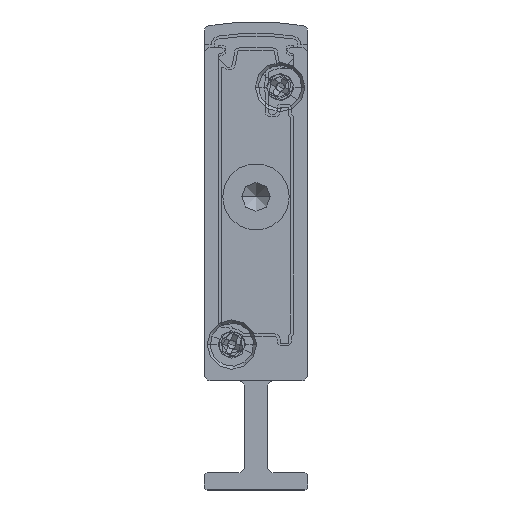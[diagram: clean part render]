
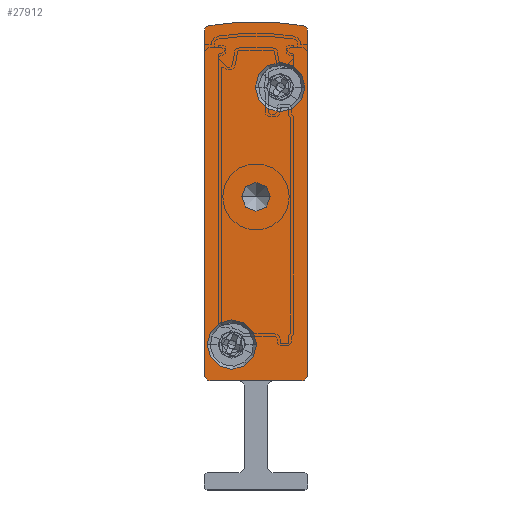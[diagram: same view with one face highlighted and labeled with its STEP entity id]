
A CAD part, front view. The second image highlights one B-rep face of the part: STEP entity #27912.
In plain terms, the highlighted planar face has unit normal (0, -1, 0).
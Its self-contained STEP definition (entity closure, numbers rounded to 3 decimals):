
#16 = ORIENTED_EDGE ( 'NONE', *, *, #5383, .F. ) ;
#88 = CARTESIAN_POINT ( 'NONE',  ( 0., -2.5, 10. ) ) ;
#490 = CARTESIAN_POINT ( 'NONE',  ( 6.6, -2.5, 35.05 ) ) ;
#936 = DIRECTION ( 'NONE',  ( -1., 0., 0. ) ) ;
#1350 = CARTESIAN_POINT ( 'NONE',  ( 0.5, -2.5, 39.902 ) ) ;
#1627 = EDGE_CURVE ( 'NONE', #18085, #25270, #19783, .T. ) ;
#2042 = DIRECTION ( 'NONE',  ( 0., 1., 0. ) ) ;
#2260 = DIRECTION ( 'NONE',  ( -1., 0., 0. ) ) ;
#2275 = ORIENTED_EDGE ( 'NONE', *, *, #3250, .T. ) ;
#2286 = EDGE_CURVE ( 'NONE', #25270, #18085, #25450, .T. ) ;
#2747 = CARTESIAN_POINT ( 'NONE',  ( 5.75, -2.5, 25.5 ) ) ;
#3081 = DIRECTION ( 'NONE',  ( 1., 0., 0. ) ) ;
#3250 = EDGE_CURVE ( 'NONE', #22604, #6159, #25810, .T. ) ;
#3558 = AXIS2_PLACEMENT_3D ( 'NONE', #28914, #15836, #23493 ) ;
#3563 = EDGE_LOOP ( 'NONE', ( #4522, #32672 ) ) ;
#3567 = CARTESIAN_POINT ( 'NONE',  ( 4.5, -2.5, 25.5 ) ) ;
#4421 = VERTEX_POINT ( 'NONE', #29324 ) ;
#4522 = ORIENTED_EDGE ( 'NONE', *, *, #1627, .F. ) ;
#4540 = VERTEX_POINT ( 'NONE', #16911 ) ;
#5207 = DIRECTION ( 'NONE',  ( 0., 1., 0. ) ) ;
#5383 = EDGE_CURVE ( 'NONE', #18990, #12599, #16414, .T. ) ;
#5479 = CIRCLE ( 'NONE', #20497, 0.5 ) ;
#5655 = DIRECTION ( 'NONE',  ( 1., 0., 0. ) ) ;
#5879 = EDGE_CURVE ( 'NONE', #30421, #12069, #18082, .T. ) ;
#6041 = CARTESIAN_POINT ( 'NONE',  ( 2.4, -2.5, 12.65 ) ) ;
#6115 = DIRECTION ( 'NONE',  ( 0., 1., 0. ) ) ;
#6159 = VERTEX_POINT ( 'NONE', #16848 ) ;
#6209 = CARTESIAN_POINT ( 'NONE',  ( 0.5, -2.5, 9.5 ) ) ;
#6306 = DIRECTION ( 'NONE',  ( 0., 1., 0. ) ) ;
#6441 = VERTEX_POINT ( 'NONE', #10023 ) ;
#6478 = DIRECTION ( 'NONE',  ( 0., -1., 0. ) ) ;
#6849 = EDGE_CURVE ( 'NONE', #11015, #4421, #27339, .T. ) ;
#6907 = DIRECTION ( 'NONE',  ( 1., 0., 0. ) ) ;
#7150 = CIRCLE ( 'NONE', #26498, 0.5 ) ;
#7227 = DIRECTION ( 'NONE',  ( -1., 0., 0. ) ) ;
#7665 = PLANE ( 'NONE',  #11018 ) ;
#7734 = CARTESIAN_POINT ( 'NONE',  ( 0.5, -2.5, 10. ) ) ;
#8052 = CARTESIAN_POINT ( 'NONE',  ( 0.5, -2.5, 9.5 ) ) ;
#8266 = EDGE_CURVE ( 'NONE', #4540, #6441, #24892, .T. ) ;
#8344 = CARTESIAN_POINT ( 'NONE',  ( 4.55, -2.5, 12.65 ) ) ;
#9285 = CARTESIAN_POINT ( 'NONE',  ( 0.408, -2.5, 40.393 ) ) ;
#9975 = DIRECTION ( 'NONE',  ( -1., 0., 0. ) ) ;
#10023 = CARTESIAN_POINT ( 'NONE',  ( 9., -2.5, 10. ) ) ;
#10039 = ORIENTED_EDGE ( 'NONE', *, *, #33192, .F. ) ;
#10143 = ORIENTED_EDGE ( 'NONE', *, *, #25321, .F. ) ;
#10177 = AXIS2_PLACEMENT_3D ( 'NONE', #11277, #6115, #936 ) ;
#10195 = DIRECTION ( 'NONE',  ( 0., 1., 0. ) ) ;
#10214 = VERTEX_POINT ( 'NONE', #27366 ) ;
#10241 = CARTESIAN_POINT ( 'NONE',  ( 0.5, -2.5, 39.902 ) ) ;
#10334 = VECTOR ( 'NONE', #29948, 1000. ) ;
#11015 = VERTEX_POINT ( 'NONE', #88 ) ;
#11018 = AXIS2_PLACEMENT_3D ( 'NONE', #10241, #5207, #2260 ) ;
#11109 = AXIS2_PLACEMENT_3D ( 'NONE', #31917, #6306, #11701 ) ;
#11277 = CARTESIAN_POINT ( 'NONE',  ( 8.5, -2.5, 10. ) ) ;
#11532 = VECTOR ( 'NONE', #21162, 1000. ) ;
#11568 = VECTOR ( 'NONE', #15291, 1000. ) ;
#11574 = EDGE_CURVE ( 'NONE', #10214, #4540, #5479, .T. ) ;
#11701 = DIRECTION ( 'NONE',  ( -1., 0., 0. ) ) ;
#12069 = VERTEX_POINT ( 'NONE', #13901 ) ;
#12163 = FACE_BOUND ( 'NONE', #3563, .T. ) ;
#12599 = VERTEX_POINT ( 'NONE', #6209 ) ;
#13338 = CARTESIAN_POINT ( 'NONE',  ( 2.4, -2.5, 12.65 ) ) ;
#13635 = CIRCLE ( 'NONE', #10177, 0.5 ) ;
#13688 = ORIENTED_EDGE ( 'NONE', *, *, #5879, .F. ) ;
#13838 = DIRECTION ( 'NONE',  ( 0., 1., 0. ) ) ;
#13901 = CARTESIAN_POINT ( 'NONE',  ( 0.25, -2.5, 12.65 ) ) ;
#14983 = FACE_BOUND ( 'NONE', #18258, .T. ) ;
#15291 = DIRECTION ( 'NONE',  ( 0., 0., 1. ) ) ;
#15324 = CARTESIAN_POINT ( 'NONE',  ( 8.75, -2.5, 35.05 ) ) ;
#15836 = DIRECTION ( 'NONE',  ( 0., 1., 0. ) ) ;
#16173 = DIRECTION ( 'NONE',  ( 0., -1., 0. ) ) ;
#16183 = AXIS2_PLACEMENT_3D ( 'NONE', #490, #16173, #3081 ) ;
#16244 = ORIENTED_EDGE ( 'NONE', *, *, #25006, .T. ) ;
#16258 = ORIENTED_EDGE ( 'NONE', *, *, #6849, .F. ) ;
#16414 = LINE ( 'NONE', #8052, #11532 ) ;
#16446 = EDGE_CURVE ( 'NONE', #6441, #18990, #13635, .T. ) ;
#16604 = ORIENTED_EDGE ( 'NONE', *, *, #32961, .F. ) ;
#16848 = CARTESIAN_POINT ( 'NONE',  ( 3.25, -2.5, 25.5 ) ) ;
#16911 = CARTESIAN_POINT ( 'NONE',  ( 9., -2.5, 39.902 ) ) ;
#17015 = EDGE_CURVE ( 'NONE', #12069, #30421, #25673, .T. ) ;
#17413 = AXIS2_PLACEMENT_3D ( 'NONE', #7734, #10195, #9975 ) ;
#17884 = CIRCLE ( 'NONE', #17413, 0.5 ) ;
#17926 = EDGE_LOOP ( 'NONE', ( #13688, #26987 ) ) ;
#18062 = CIRCLE ( 'NONE', #3558, 1.25 ) ;
#18082 = CIRCLE ( 'NONE', #27078, 2.15 ) ;
#18085 = VERTEX_POINT ( 'NONE', #15324 ) ;
#18258 = EDGE_LOOP ( 'NONE', ( #16244, #2275 ) ) ;
#18279 = CIRCLE ( 'NONE', #11109, 23.658 ) ;
#18714 = DIRECTION ( 'NONE',  ( -1., 0., 0. ) ) ;
#18990 = VERTEX_POINT ( 'NONE', #27279 ) ;
#19783 = CIRCLE ( 'NONE', #16183, 2.15 ) ;
#20048 = CARTESIAN_POINT ( 'NONE',  ( 9., -2.5, 39.902 ) ) ;
#20400 = AXIS2_PLACEMENT_3D ( 'NONE', #3567, #13838, #18714 ) ;
#20497 = AXIS2_PLACEMENT_3D ( 'NONE', #27890, #2042, #7227 ) ;
#20886 = ORIENTED_EDGE ( 'NONE', *, *, #16446, .F. ) ;
#21085 = ORIENTED_EDGE ( 'NONE', *, *, #11574, .F. ) ;
#21162 = DIRECTION ( 'NONE',  ( -1., 0., 0. ) ) ;
#22255 = CARTESIAN_POINT ( 'NONE',  ( 6.6, -2.5, 35.05 ) ) ;
#22604 = VERTEX_POINT ( 'NONE', #2747 ) ;
#23482 = FACE_OUTER_BOUND ( 'NONE', #27388, .T. ) ;
#23493 = DIRECTION ( 'NONE',  ( -1., 0., 0. ) ) ;
#24478 = DIRECTION ( 'NONE',  ( 0., 1., 0. ) ) ;
#24892 = LINE ( 'NONE', #20048, #10334 ) ;
#25006 = EDGE_CURVE ( 'NONE', #6159, #22604, #18062, .T. ) ;
#25270 = VERTEX_POINT ( 'NONE', #29661 ) ;
#25321 = EDGE_CURVE ( 'NONE', #4421, #31229, #7150, .T. ) ;
#25450 = CIRCLE ( 'NONE', #29356, 2.15 ) ;
#25673 = CIRCLE ( 'NONE', #32442, 2.15 ) ;
#25810 = CIRCLE ( 'NONE', #20400, 1.25 ) ;
#26498 = AXIS2_PLACEMENT_3D ( 'NONE', #1350, #24478, #29767 ) ;
#26897 = DIRECTION ( 'NONE',  ( 1., 0., 0. ) ) ;
#26987 = ORIENTED_EDGE ( 'NONE', *, *, #17015, .F. ) ;
#27078 = AXIS2_PLACEMENT_3D ( 'NONE', #13338, #31483, #5655 ) ;
#27279 = CARTESIAN_POINT ( 'NONE',  ( 8.5, -2.5, 9.5 ) ) ;
#27339 = LINE ( 'NONE', #30739, #11568 ) ;
#27366 = CARTESIAN_POINT ( 'NONE',  ( 8.592, -2.5, 40.393 ) ) ;
#27388 = EDGE_LOOP ( 'NONE', ( #10143, #16258, #10039, #16, #20886, #30725, #21085, #16604 ) ) ;
#27446 = DIRECTION ( 'NONE',  ( 0., -1., 0. ) ) ;
#27890 = CARTESIAN_POINT ( 'NONE',  ( 8.5, -2.5, 39.902 ) ) ;
#27912 = ADVANCED_FACE ( 'NONE', ( #12163, #31952, #23482, #14983 ), #7665, .F. ) ;
#28914 = CARTESIAN_POINT ( 'NONE',  ( 4.5, -2.5, 25.5 ) ) ;
#29324 = CARTESIAN_POINT ( 'NONE',  ( 0., -2.5, 39.902 ) ) ;
#29356 = AXIS2_PLACEMENT_3D ( 'NONE', #22255, #27446, #6907 ) ;
#29661 = CARTESIAN_POINT ( 'NONE',  ( 4.45, -2.5, 35.05 ) ) ;
#29767 = DIRECTION ( 'NONE',  ( -1., 0., 0. ) ) ;
#29948 = DIRECTION ( 'NONE',  ( 0., 0., -1. ) ) ;
#30421 = VERTEX_POINT ( 'NONE', #8344 ) ;
#30725 = ORIENTED_EDGE ( 'NONE', *, *, #8266, .F. ) ;
#30739 = CARTESIAN_POINT ( 'NONE',  ( 0., -2.5, 39.902 ) ) ;
#31229 = VERTEX_POINT ( 'NONE', #9285 ) ;
#31483 = DIRECTION ( 'NONE',  ( 0., -1., 0. ) ) ;
#31917 = CARTESIAN_POINT ( 'NONE',  ( 4.5, -2.5, 17.092 ) ) ;
#31952 = FACE_BOUND ( 'NONE', #17926, .T. ) ;
#32442 = AXIS2_PLACEMENT_3D ( 'NONE', #6041, #6478, #26897 ) ;
#32672 = ORIENTED_EDGE ( 'NONE', *, *, #2286, .F. ) ;
#32961 = EDGE_CURVE ( 'NONE', #31229, #10214, #18279, .T. ) ;
#33192 = EDGE_CURVE ( 'NONE', #12599, #11015, #17884, .T. ) ;
